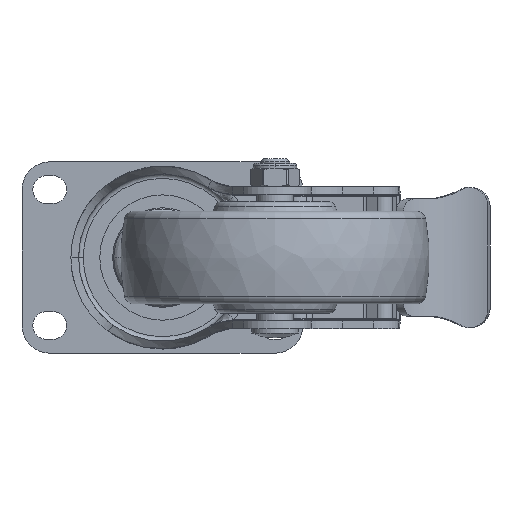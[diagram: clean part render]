
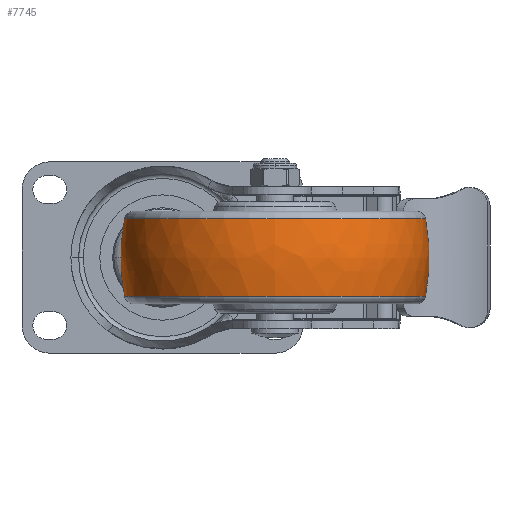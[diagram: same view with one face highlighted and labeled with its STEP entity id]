
A CAD part, front view. The second image highlights one B-rep face of the part: STEP entity #7745.
In plain terms, the highlighted free-form (B-spline) face has degree [3, 3] with [7, 4] control points.
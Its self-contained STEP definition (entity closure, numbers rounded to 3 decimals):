
#7215=CARTESIAN_POINT('',(0.,-15.,0.));
#7216=DIRECTION('',(0.,0.,1.));
#7217=DIRECTION('',(0.194,0.981,0.));
#7218=AXIS2_PLACEMENT_3D('',#7215,#7216,#7217);
#7220=CARTESIAN_POINT('',(0.,15.,0.));
#7221=DIRECTION('',(0.,0.,-1.));
#7222=DIRECTION('',(0.194,-0.981,0.));
#7223=AXIS2_PLACEMENT_3D('',#7220,#7221,#7222);
#7225=CARTESIAN_POINT('',(12.581,0.,0.));
#7226=DIRECTION('',(-1.,0.,0.));
#7227=DIRECTION('',(0.,1.,0.));
#7228=AXIS2_PLACEMENT_3D('',#7225,#7226,#7227);
#7240=CARTESIAN_POINT('',(-12.581,0.,0.));
#7241=DIRECTION('',(-1.,0.,0.));
#7242=DIRECTION('',(0.,1.,0.));
#7243=AXIS2_PLACEMENT_3D('',#7240,#7241,#7242);
#7580=CARTESIAN_POINT('',(12.581,48.771,0.));
#7581=CARTESIAN_POINT('',(-12.581,48.771,0.));
#7582=VERTEX_POINT('',#7580);
#7583=VERTEX_POINT('',#7581);
#7624=CARTESIAN_POINT('',(12.581,-48.771,0.));
#7625=CARTESIAN_POINT('',(-12.581,-48.771,0.));
#7626=VERTEX_POINT('',#7624);
#7627=VERTEX_POINT('',#7625);
#7708=CARTESIAN_POINT('',(-13.077,-48.575,
3.056));
#7709=CARTESIAN_POINT('',(-4.419,-50.35,
3.168));
#7710=CARTESIAN_POINT('',(4.419,-50.35,3.168));
#7711=CARTESIAN_POINT('',(13.077,-48.575,3.056));
#7712=CARTESIAN_POINT('',(-13.077,-50.456,
-26.837));
#7713=CARTESIAN_POINT('',(-4.419,-52.299,
-27.817));
#7714=CARTESIAN_POINT('',(4.419,-52.299,
-27.817));
#7715=CARTESIAN_POINT('',(13.077,-50.456,
-26.837));
#7716=CARTESIAN_POINT('',(-13.077,-29.952,
-48.671));
#7717=CARTESIAN_POINT('',(-4.419,-31.046,
-50.449));
#7718=CARTESIAN_POINT('',(4.419,-31.046,
-50.449));
#7719=CARTESIAN_POINT('',(13.077,-29.952,
-48.671));
#7720=CARTESIAN_POINT('',(-13.077,0.,-48.671));
#7721=CARTESIAN_POINT('',(-4.419,0.,-50.449));
#7722=CARTESIAN_POINT('',(4.419,0.,-50.449));
#7723=CARTESIAN_POINT('',(13.077,0.,
-48.671));
#7724=CARTESIAN_POINT('',(-13.077,29.952,
-48.671));
#7725=CARTESIAN_POINT('',(-4.419,31.046,
-50.449));
#7726=CARTESIAN_POINT('',(4.419,31.046,-50.449));
#7727=CARTESIAN_POINT('',(13.077,29.952,-48.671));
#7728=CARTESIAN_POINT('',(-13.077,50.456,
-26.837));
#7729=CARTESIAN_POINT('',(-4.419,52.299,
-27.817));
#7730=CARTESIAN_POINT('',(4.419,52.299,-27.817));
#7731=CARTESIAN_POINT('',(13.077,50.456,-26.837));
#7732=CARTESIAN_POINT('',(-13.077,48.575,3.056));
#7733=CARTESIAN_POINT('',(-4.419,50.35,3.168));
#7734=CARTESIAN_POINT('',(4.419,50.35,3.168));
#7735=CARTESIAN_POINT('',(13.077,48.575,3.056));
#7736=(BOUNDED_SURFACE()B_SPLINE_SURFACE(3,3,((#7708,#7709,#7710,#7711),(#7712,
#7713,#7714,#7715),(#7716,#7717,#7718,#7719),(#7720,#7721,#7722,#7723),(#7724,
#7725,#7726,#7727),(#7728,#7729,#7730,#7731),(#7732,#7733,#7734,#7735)),
.UNSPECIFIED.,.F.,.F.,.F.)B_SPLINE_SURFACE_WITH_KNOTS((4,3,4),(4,4),(0.,1.,
2.),(0.,1.),.UNSPECIFIED.)GEOMETRIC_REPRESENTATION_ITEM()RATIONAL_B_SPLINE_SURFACE(((1.2,1.183,1.183,1.2),(
0.947,0.934,0.934,0.947),(
0.947,0.934,0.934,0.947),(
1.2,1.183,1.183,1.2),(
0.947,0.934,0.934,0.947),(
0.947,0.934,0.934,0.947),(
1.2,1.183,1.183,1.2)))REPRESENTATION_ITEM('')SURFACE());
#7737=ORIENTED_EDGE('',*,*,#7697,.T.);
#7739=ORIENTED_EDGE('',*,*,#7738,.T.);
#7740=ORIENTED_EDGE('',*,*,#7701,.F.);
#7742=ORIENTED_EDGE('',*,*,#7741,.F.);
#7743=EDGE_LOOP('',(#7737,#7739,#7740,#7742));
#7744=FACE_OUTER_BOUND('',#7743,.F.);
#7219=CIRCLE('',#7218,65.);
#7224=CIRCLE('',#7223,65.);
#7229=CIRCLE('',#7228,48.771);
#7244=CIRCLE('',#7243,48.771);
#7697=EDGE_CURVE('',#7582,#7583,#7219,.T.);
#7701=EDGE_CURVE('',#7626,#7627,#7224,.T.);
#7738=EDGE_CURVE('',#7583,#7627,#7244,.T.);
#7741=EDGE_CURVE('',#7582,#7626,#7229,.T.);
#7745=ADVANCED_FACE('',(#7744),#7736,.T.);
